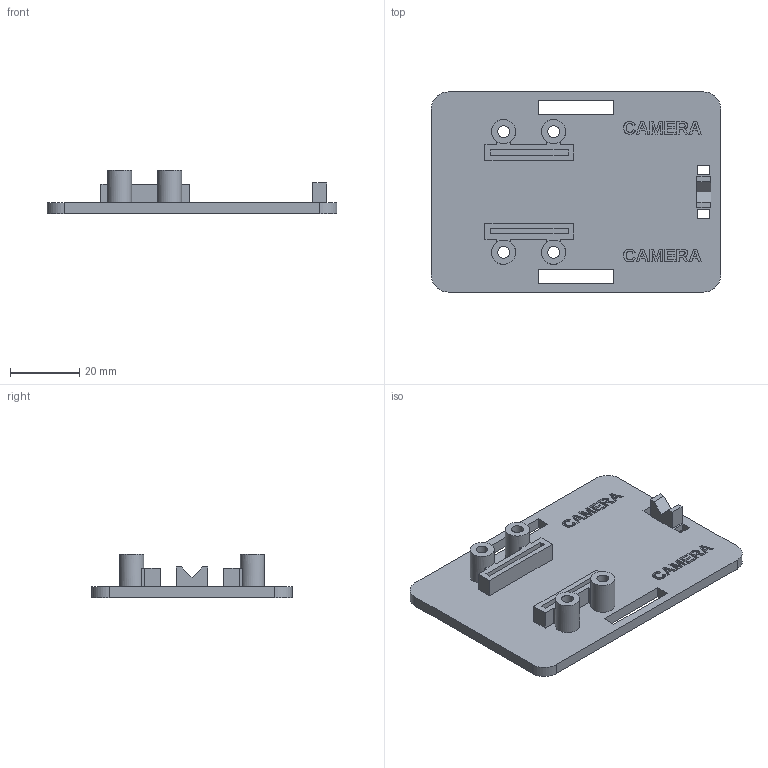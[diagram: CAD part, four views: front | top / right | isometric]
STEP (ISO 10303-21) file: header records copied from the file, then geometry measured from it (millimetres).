
FILE_DESCRIPTION(('Open CASCADE Model'),'2;1');
FILE_NAME('Open CASCADE Shape Model','2026-11-11T17:54:49',('Author'),( 'Open CASCADE'),'Open CASCADE STEP processor 7.9','Open CASCADE 7.9' ,'Unknown');
FILE_SCHEMA(('AUTOMOTIVE_DESIGN { 1 0 10303 214 1 1 1 1 }'));
Length unit declared in the file: millimetre
Products named in the file (1): Open CASCADE STEP translator 7.9 1
Bounding box: 84 x 58 x 12.74 mm (x, y, z)
Volume: 16573.2 mm3; surface area: 13542.6 mm2
Topology: 1 solids, 1 shells, 299 faces, 813 edges, 542 vertices
Faces by surface type: plane 223, extrusion 60, cylinder 16
Full cylindrical faces by diameter (mm): 3.4 x4, 6.6 x4, 7 x4
Entity records: 21536 total; most frequent: CARTESIAN_POINT 6309, DIRECTION 2341, VECTOR 1755, LINE 1695, ORIENTED_EDGE 1626, PCURVE 1626, DEFINITIONAL_REPRESENTATION 1626, EDGE_CURVE 813
